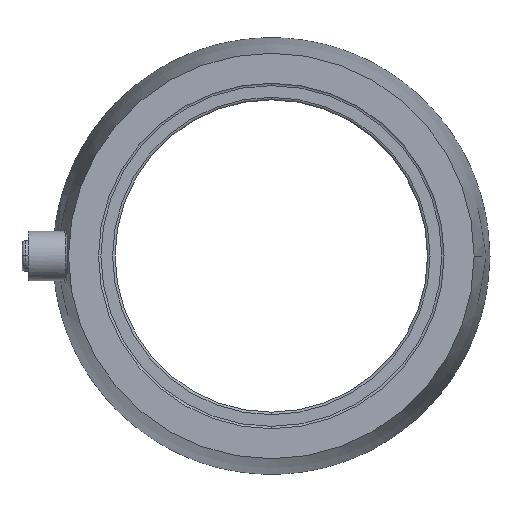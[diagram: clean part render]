
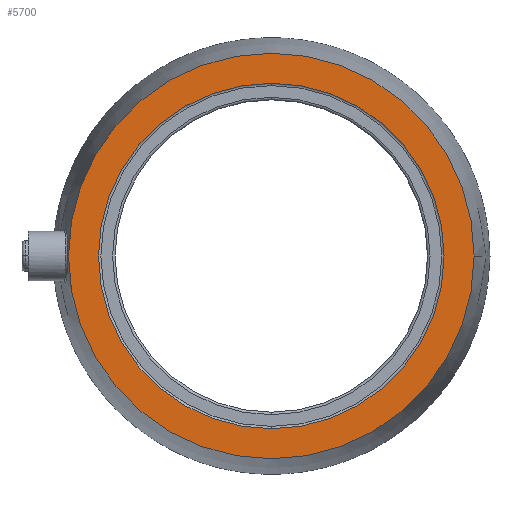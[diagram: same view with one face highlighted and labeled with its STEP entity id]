
A CAD part, left-side view. The second image highlights one B-rep face of the part: STEP entity #5700.
In plain terms, the highlighted planar face has unit normal (-1, 0, 0).
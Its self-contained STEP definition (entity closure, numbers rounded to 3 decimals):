
#704 = AXIS2_PLACEMENT_3D ( 'NONE', #1125, #1132, #1133 ) ;
#781 = CIRCLE ( 'NONE', #785, 64.909 ) ;
#785 = AXIS2_PLACEMENT_3D ( 'NONE', #8870, #8871, #8872 ) ;
#793 = CIRCLE ( 'NONE', #805, 55.3 ) ;
#796 = AXIS2_PLACEMENT_3D ( 'NONE', #8859, #8860, #8861 ) ;
#799 = CIRCLE ( 'NONE', #796, 64.909 ) ;
#805 = AXIS2_PLACEMENT_3D ( 'NONE', #8762, #8763, #8764 ) ;
#1125 = CARTESIAN_POINT ( 'NONE',  ( -67.5, 64.909, 0. ) ) ;
#1126 = FACE_BOUND ( 'NONE', #5596, .T. ) ;
#1129 = FACE_OUTER_BOUND ( 'NONE', #5597, .T. ) ;
#1130 = PLANE ( 'NONE',  #704 ) ;
#1132 = DIRECTION ( 'NONE',  ( 1., 0., 0. ) ) ;
#1133 = DIRECTION ( 'NONE',  ( 0., 1., 0. ) ) ;
#5135 = VERTEX_POINT ( 'NONE', #8615 ) ;
#5142 = VERTEX_POINT ( 'NONE', #8621 ) ;
#5192 = EDGE_CURVE ( 'NONE', #5142, #5135, #793, .T. ) ;
#5196 = EDGE_CURVE ( 'NONE', #5319, #5321, #799, .T. ) ;
#5199 = EDGE_CURVE ( 'NONE', #5321, #5319, #781, .T. ) ;
#5319 = VERTEX_POINT ( 'NONE', #9549 ) ;
#5321 = VERTEX_POINT ( 'NONE', #9551 ) ;
#5439 = ORIENTED_EDGE ( 'NONE', *, *, #5192, .T. ) ;
#5440 = ORIENTED_EDGE ( 'NONE', *, *, #8583, .T. ) ;
#5441 = ORIENTED_EDGE ( 'NONE', *, *, #5199, .T. ) ;
#5442 = ORIENTED_EDGE ( 'NONE', *, *, #5196, .T. ) ;
#5596 = EDGE_LOOP ( 'NONE', ( #5439, #5440 ) ) ;
#5597 = EDGE_LOOP ( 'NONE', ( #5441, #5442 ) ) ;
#5700 = ADVANCED_FACE ( 'NONE', ( #1126, #1129 ), #1130, .F. ) ;
#7464 = CIRCLE ( 'NONE', #7468, 55.3 ) ;
#7468 = AXIS2_PLACEMENT_3D ( 'NONE', #7847, #7848, #7849 ) ;
#7847 = CARTESIAN_POINT ( 'NONE',  ( -67.5, 0., 0. ) ) ;
#7848 = DIRECTION ( 'NONE',  ( 1., 0., 0. ) ) ;
#7849 = DIRECTION ( 'NONE',  ( 0., 1., 0. ) ) ;
#8583 = EDGE_CURVE ( 'NONE', #5135, #5142, #7464, .T. ) ;
#8615 = CARTESIAN_POINT ( 'NONE',  ( -67.5, 0., 55.3 ) ) ;
#8621 = CARTESIAN_POINT ( 'NONE',  ( -67.5, 0., -55.3 ) ) ;
#8762 = CARTESIAN_POINT ( 'NONE',  ( -67.5, 0., 0. ) ) ;
#8763 = DIRECTION ( 'NONE',  ( 1., 0., 0. ) ) ;
#8764 = DIRECTION ( 'NONE',  ( 0., 1., 0. ) ) ;
#8859 = CARTESIAN_POINT ( 'NONE',  ( -67.5, 0., 0. ) ) ;
#8860 = DIRECTION ( 'NONE',  ( -1., 0., 0. ) ) ;
#8861 = DIRECTION ( 'NONE',  ( 0., -1., 0. ) ) ;
#8870 = CARTESIAN_POINT ( 'NONE',  ( -67.5, 0., 0. ) ) ;
#8871 = DIRECTION ( 'NONE',  ( -1., 0., 0. ) ) ;
#8872 = DIRECTION ( 'NONE',  ( 0., -1., 0. ) ) ;
#9549 = CARTESIAN_POINT ( 'NONE',  ( -67.5, 64.909, 0. ) ) ;
#9551 = CARTESIAN_POINT ( 'NONE',  ( -67.5, -64.909, 0. ) ) ;
